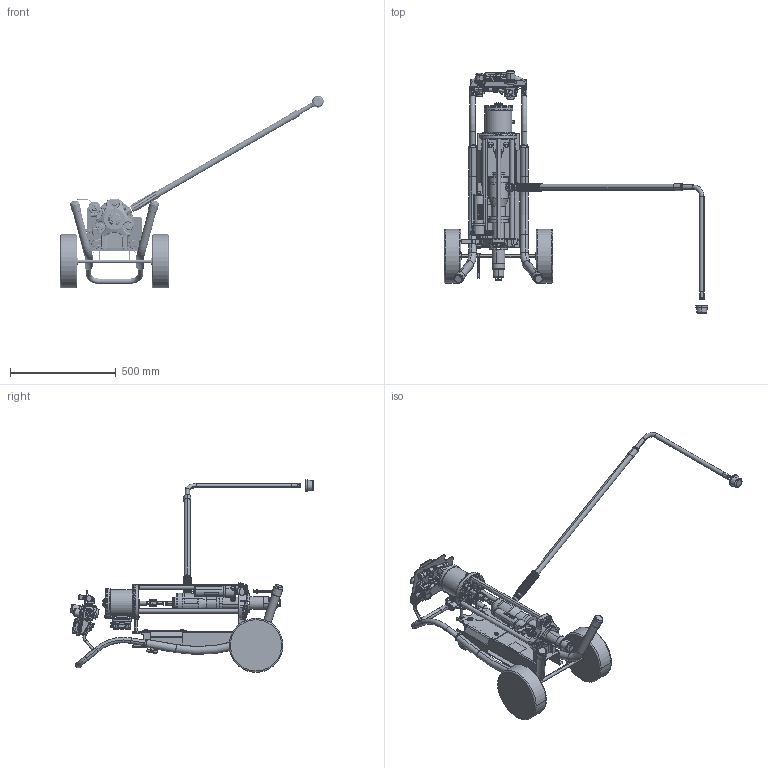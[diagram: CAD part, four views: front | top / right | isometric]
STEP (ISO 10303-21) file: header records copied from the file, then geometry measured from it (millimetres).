
FILE_DESCRIPTION((''),'2;1');
FILE_NAME('G15B05-EN-L_PRT','2023-11-07T14:38:10',('qtmwp1'),(''),'CREO PARAMETRIC BY PTC INC, 2021072','CREO PARAMETRIC BY PTC INC, 2021072','');
FILE_SCHEMA(('CONFIG_CONTROL_DESIGN'));
Products named in the file (1): G15B05-EN-L_PRT
Bounding box: 1246.89 x 1149.31 x 911.57 mm (x, y, z)
Surface area: 2292390.8 mm2 (no closed solid volume)
Topology: 0 solids, 474 shells, 1990 faces, 7789 edges, 6009 vertices
Faces by surface type: plane 661, cylinder 604, cone 421, torus 203, bspline 93, sphere 8
Entity records: 109367 total; most frequent: CARTESIAN_POINT 49568, DIRECTION 12257, ORIENTED_EDGE 10392, EDGE_CURVE 7779, VERTEX_POINT 6009, AXIS2_PLACEMENT_3D 4750, CIRCLE 2853, VECTOR 2757
